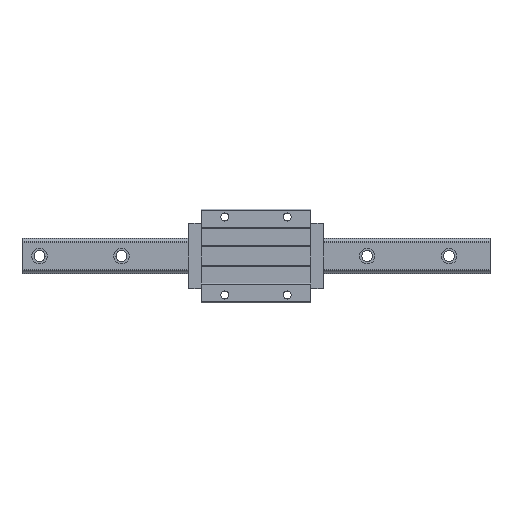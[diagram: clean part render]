
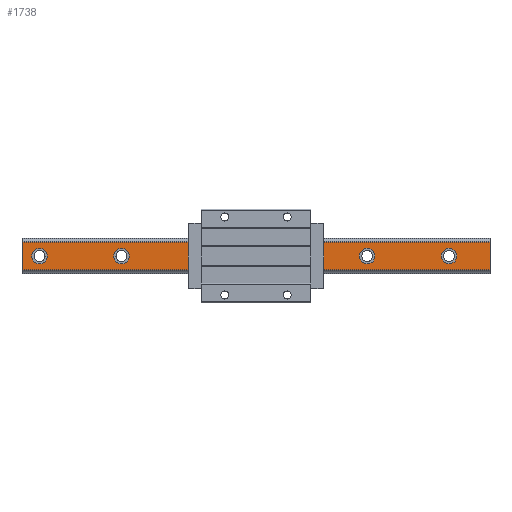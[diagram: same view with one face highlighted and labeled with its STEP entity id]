
A CAD part, top view. The second image highlights one B-rep face of the part: STEP entity #1738.
In plain terms, the highlighted planar face has unit normal (0, 0, 1).
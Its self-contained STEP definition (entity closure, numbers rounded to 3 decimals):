
#31 = DIRECTION ( 'NONE',  ( -1., 0., 0. ) ) ;
#39 = ORIENTED_EDGE ( 'NONE', *, *, #2784, .F. ) ;
#51 = EDGE_LOOP ( 'NONE', ( #957, #39 ) ) ;
#82 = CARTESIAN_POINT ( 'NONE',  ( -300., -17.738, 32. ) ) ;
#126 = ORIENTED_EDGE ( 'NONE', *, *, #6554, .F. ) ;
#248 = CARTESIAN_POINT ( 'NONE',  ( 27.5, 0., 32. ) ) ;
#260 = ORIENTED_EDGE ( 'NONE', *, *, #305, .F. ) ;
#272 = AXIS2_PLACEMENT_3D ( 'NONE', #1251, #1767, #5668 ) ;
#273 = CARTESIAN_POINT ( 'NONE',  ( 300., 17.738, 32. ) ) ;
#288 = CARTESIAN_POINT ( 'NONE',  ( -67.5, 0., 32. ) ) ;
#300 = DIRECTION ( 'NONE',  ( 0., 0., 1. ) ) ;
#305 = EDGE_CURVE ( 'NONE', #7238, #7233, #6548, .T. ) ;
#335 = DIRECTION ( 'NONE',  ( 1., 0., 0. ) ) ;
#344 = EDGE_CURVE ( 'NONE', #591, #1728, #6072, .T. ) ;
#379 = CIRCLE ( 'NONE', #5137, 10. ) ;
#412 = AXIS2_PLACEMENT_3D ( 'NONE', #3493, #5789, #671 ) ;
#574 = CARTESIAN_POINT ( 'NONE',  ( -172.5, 0., 32. ) ) ;
#580 = AXIS2_PLACEMENT_3D ( 'NONE', #3561, #4201, #1326 ) ;
#591 = VERTEX_POINT ( 'NONE', #1992 ) ;
#637 = CARTESIAN_POINT ( 'NONE',  ( -277.5, 0., 32. ) ) ;
#671 = DIRECTION ( 'NONE',  ( 1., 0., 0. ) ) ;
#716 = EDGE_LOOP ( 'NONE', ( #5692, #5551 ) ) ;
#730 = EDGE_LOOP ( 'NONE', ( #5321, #5568 ) ) ;
#793 = EDGE_LOOP ( 'NONE', ( #6855, #3366 ) ) ;
#827 = CIRCLE ( 'NONE', #2730, 10. ) ;
#867 = VERTEX_POINT ( 'NONE', #2977 ) ;
#897 = CARTESIAN_POINT ( 'NONE',  ( 237.5, 0., 32. ) ) ;
#957 = ORIENTED_EDGE ( 'NONE', *, *, #4849, .F. ) ;
#992 = FACE_BOUND ( 'NONE', #730, .T. ) ;
#1002 = DIRECTION ( 'NONE',  ( 0., 0., 1. ) ) ;
#1029 = DIRECTION ( 'NONE',  ( 0., 0., 1. ) ) ;
#1146 = VERTEX_POINT ( 'NONE', #3009 ) ;
#1224 = AXIS2_PLACEMENT_3D ( 'NONE', #6665, #6699, #3835 ) ;
#1251 = CARTESIAN_POINT ( 'NONE',  ( -277.5, 0., 32. ) ) ;
#1326 = DIRECTION ( 'NONE',  ( 1., 0., 0. ) ) ;
#1462 = AXIS2_PLACEMENT_3D ( 'NONE', #637, #5718, #5151 ) ;
#1516 = PLANE ( 'NONE',  #5240 ) ;
#1527 = CARTESIAN_POINT ( 'NONE',  ( 142.5, 0., 32. ) ) ;
#1557 = VECTOR ( 'NONE', #5784, 1000. ) ;
#1676 = EDGE_CURVE ( 'NONE', #7163, #5644, #827, .T. ) ;
#1686 = CIRCLE ( 'NONE', #272, 10. ) ;
#1728 = VERTEX_POINT ( 'NONE', #2147 ) ;
#1738 = ADVANCED_FACE ( 'NONE', ( #7234, #2734, #992, #3888, #4310, #6086, #2077 ), #1516, .F. ) ;
#1751 = EDGE_CURVE ( 'NONE', #3035, #1146, #2292, .T. ) ;
#1767 = DIRECTION ( 'NONE',  ( 0., 0., 1. ) ) ;
#1797 = CARTESIAN_POINT ( 'NONE',  ( -300., -17.738, 32. ) ) ;
#1992 = CARTESIAN_POINT ( 'NONE',  ( 152.5, 0., 32. ) ) ;
#2077 = FACE_OUTER_BOUND ( 'NONE', #3381, .T. ) ;
#2147 = CARTESIAN_POINT ( 'NONE',  ( 132.5, 0., 32. ) ) ;
#2211 = VERTEX_POINT ( 'NONE', #3947 ) ;
#2292 = CIRCLE ( 'NONE', #2993, 10. ) ;
#2325 = CARTESIAN_POINT ( 'NONE',  ( -162.5, 0., 32. ) ) ;
#2494 = DIRECTION ( 'NONE',  ( 1., 0., 0. ) ) ;
#2526 = ORIENTED_EDGE ( 'NONE', *, *, #6822, .T. ) ;
#2554 = EDGE_LOOP ( 'NONE', ( #4116, #260 ) ) ;
#2572 = CARTESIAN_POINT ( 'NONE',  ( 257.5, 0., 32. ) ) ;
#2578 = DIRECTION ( 'NONE',  ( 0., 0., 1. ) ) ;
#2582 = CARTESIAN_POINT ( 'NONE',  ( -77.5, 0., 32. ) ) ;
#2664 = DIRECTION ( 'NONE',  ( 0., 0., 1. ) ) ;
#2730 = AXIS2_PLACEMENT_3D ( 'NONE', #5588, #1029, #335 ) ;
#2734 = FACE_BOUND ( 'NONE', #716, .T. ) ;
#2784 = EDGE_CURVE ( 'NONE', #3250, #7095, #3961, .T. ) ;
#2836 = CARTESIAN_POINT ( 'NONE',  ( 300., -17.738, 32. ) ) ;
#2853 = AXIS2_PLACEMENT_3D ( 'NONE', #4713, #7184, #3662 ) ;
#2977 = CARTESIAN_POINT ( 'NONE',  ( -287.5, 0., 32. ) ) ;
#2993 = AXIS2_PLACEMENT_3D ( 'NONE', #4457, #2664, #6758 ) ;
#2997 = VERTEX_POINT ( 'NONE', #82 ) ;
#3009 = CARTESIAN_POINT ( 'NONE',  ( -57.5, 0., 32. ) ) ;
#3031 = VECTOR ( 'NONE', #31, 1000. ) ;
#3035 = VERTEX_POINT ( 'NONE', #2582 ) ;
#3130 = CARTESIAN_POINT ( 'NONE',  ( 300., 17.738, 32. ) ) ;
#3237 = DIRECTION ( 'NONE',  ( -1., 0., 0. ) ) ;
#3250 = VERTEX_POINT ( 'NONE', #248 ) ;
#3255 = DIRECTION ( 'NONE',  ( 0., -1., 0. ) ) ;
#3297 = EDGE_CURVE ( 'NONE', #5202, #6269, #7144, .T. ) ;
#3366 = ORIENTED_EDGE ( 'NONE', *, *, #5677, .F. ) ;
#3375 = VECTOR ( 'NONE', #3237, 1000. ) ;
#3381 = EDGE_LOOP ( 'NONE', ( #2526, #6000, #126, #5330 ) ) ;
#3493 = CARTESIAN_POINT ( 'NONE',  ( 37.5, 0., 32. ) ) ;
#3561 = CARTESIAN_POINT ( 'NONE',  ( 247.5, 0., 32. ) ) ;
#3591 = CIRCLE ( 'NONE', #2853, 10. ) ;
#3662 = DIRECTION ( 'NONE',  ( 1., 0., 0. ) ) ;
#3712 = ORIENTED_EDGE ( 'NONE', *, *, #344, .F. ) ;
#3824 = VECTOR ( 'NONE', #5804, 1000. ) ;
#3825 = CIRCLE ( 'NONE', #1224, 10. ) ;
#3835 = DIRECTION ( 'NONE',  ( 1., 0., 0. ) ) ;
#3888 = FACE_BOUND ( 'NONE', #51, .T. ) ;
#3924 = CIRCLE ( 'NONE', #4425, 10. ) ;
#3947 = CARTESIAN_POINT ( 'NONE',  ( -267.5, 0., 32. ) ) ;
#3961 = CIRCLE ( 'NONE', #412, 10. ) ;
#3985 = DIRECTION ( 'NONE',  ( 0., 0., 1. ) ) ;
#4009 = LINE ( 'NONE', #6945, #1557 ) ;
#4116 = ORIENTED_EDGE ( 'NONE', *, *, #6907, .F. ) ;
#4182 = CIRCLE ( 'NONE', #6467, 10. ) ;
#4201 = DIRECTION ( 'NONE',  ( 0., 0., 1. ) ) ;
#4246 = EDGE_CURVE ( 'NONE', #4523, #2997, #5697, .T. ) ;
#4310 = FACE_BOUND ( 'NONE', #6594, .T. ) ;
#4423 = CARTESIAN_POINT ( 'NONE',  ( 300., -17.738, 32. ) ) ;
#4425 = AXIS2_PLACEMENT_3D ( 'NONE', #288, #2578, #5957 ) ;
#4457 = CARTESIAN_POINT ( 'NONE',  ( -67.5, 0., 32. ) ) ;
#4523 = VERTEX_POINT ( 'NONE', #6252 ) ;
#4713 = CARTESIAN_POINT ( 'NONE',  ( 247.5, 0., 32. ) ) ;
#4849 = EDGE_CURVE ( 'NONE', #7095, #3250, #3825, .T. ) ;
#5094 = EDGE_CURVE ( 'NONE', #2211, #867, #5882, .T. ) ;
#5123 = ORIENTED_EDGE ( 'NONE', *, *, #5357, .F. ) ;
#5137 = AXIS2_PLACEMENT_3D ( 'NONE', #574, #3985, #2494 ) ;
#5151 = DIRECTION ( 'NONE',  ( 1., 0., 0. ) ) ;
#5202 = VERTEX_POINT ( 'NONE', #273 ) ;
#5240 = AXIS2_PLACEMENT_3D ( 'NONE', #4423, #6682, #3255 ) ;
#5321 = ORIENTED_EDGE ( 'NONE', *, *, #6988, .F. ) ;
#5330 = ORIENTED_EDGE ( 'NONE', *, *, #3297, .T. ) ;
#5357 = EDGE_CURVE ( 'NONE', #1728, #591, #4182, .T. ) ;
#5545 = CARTESIAN_POINT ( 'NONE',  ( 47.5, 0., 32. ) ) ;
#5551 = ORIENTED_EDGE ( 'NONE', *, *, #1676, .F. ) ;
#5564 = DIRECTION ( 'NONE',  ( 1., 0., 0. ) ) ;
#5568 = ORIENTED_EDGE ( 'NONE', *, *, #1751, .F. ) ;
#5588 = CARTESIAN_POINT ( 'NONE',  ( -172.5, 0., 32. ) ) ;
#5610 = CARTESIAN_POINT ( 'NONE',  ( -182.5, 0., 32. ) ) ;
#5644 = VERTEX_POINT ( 'NONE', #2325 ) ;
#5668 = DIRECTION ( 'NONE',  ( 1., 0., 0. ) ) ;
#5677 = EDGE_CURVE ( 'NONE', #867, #2211, #1686, .T. ) ;
#5692 = ORIENTED_EDGE ( 'NONE', *, *, #7228, .F. ) ;
#5697 = LINE ( 'NONE', #2836, #3031 ) ;
#5718 = DIRECTION ( 'NONE',  ( 0., 0., 1. ) ) ;
#5784 = DIRECTION ( 'NONE',  ( 0., -1., 0. ) ) ;
#5789 = DIRECTION ( 'NONE',  ( 0., 0., 1. ) ) ;
#5804 = DIRECTION ( 'NONE',  ( 0., -1., 0. ) ) ;
#5882 = CIRCLE ( 'NONE', #1462, 10. ) ;
#5887 = LINE ( 'NONE', #1797, #3824 ) ;
#5947 = AXIS2_PLACEMENT_3D ( 'NONE', #7018, #300, #7092 ) ;
#5957 = DIRECTION ( 'NONE',  ( 1., 0., 0. ) ) ;
#6000 = ORIENTED_EDGE ( 'NONE', *, *, #4246, .F. ) ;
#6072 = CIRCLE ( 'NONE', #5947, 10. ) ;
#6086 = FACE_BOUND ( 'NONE', #2554, .T. ) ;
#6252 = CARTESIAN_POINT ( 'NONE',  ( 300., -17.738, 32. ) ) ;
#6269 = VERTEX_POINT ( 'NONE', #6580 ) ;
#6467 = AXIS2_PLACEMENT_3D ( 'NONE', #1527, #1002, #5564 ) ;
#6548 = CIRCLE ( 'NONE', #580, 10. ) ;
#6554 = EDGE_CURVE ( 'NONE', #5202, #4523, #4009, .T. ) ;
#6580 = CARTESIAN_POINT ( 'NONE',  ( -300., 17.738, 32. ) ) ;
#6594 = EDGE_LOOP ( 'NONE', ( #3712, #5123 ) ) ;
#6665 = CARTESIAN_POINT ( 'NONE',  ( 37.5, 0., 32. ) ) ;
#6682 = DIRECTION ( 'NONE',  ( 0., 0., -1. ) ) ;
#6699 = DIRECTION ( 'NONE',  ( 0., 0., 1. ) ) ;
#6758 = DIRECTION ( 'NONE',  ( 1., 0., 0. ) ) ;
#6822 = EDGE_CURVE ( 'NONE', #6269, #2997, #5887, .T. ) ;
#6855 = ORIENTED_EDGE ( 'NONE', *, *, #5094, .F. ) ;
#6907 = EDGE_CURVE ( 'NONE', #7233, #7238, #3591, .T. ) ;
#6945 = CARTESIAN_POINT ( 'NONE',  ( 300., -17.738, 32. ) ) ;
#6988 = EDGE_CURVE ( 'NONE', #1146, #3035, #3924, .T. ) ;
#7018 = CARTESIAN_POINT ( 'NONE',  ( 142.5, 0., 32. ) ) ;
#7092 = DIRECTION ( 'NONE',  ( 1., 0., 0. ) ) ;
#7095 = VERTEX_POINT ( 'NONE', #5545 ) ;
#7144 = LINE ( 'NONE', #3130, #3375 ) ;
#7163 = VERTEX_POINT ( 'NONE', #5610 ) ;
#7184 = DIRECTION ( 'NONE',  ( 0., 0., 1. ) ) ;
#7228 = EDGE_CURVE ( 'NONE', #5644, #7163, #379, .T. ) ;
#7233 = VERTEX_POINT ( 'NONE', #2572 ) ;
#7234 = FACE_BOUND ( 'NONE', #793, .T. ) ;
#7238 = VERTEX_POINT ( 'NONE', #897 ) ;
